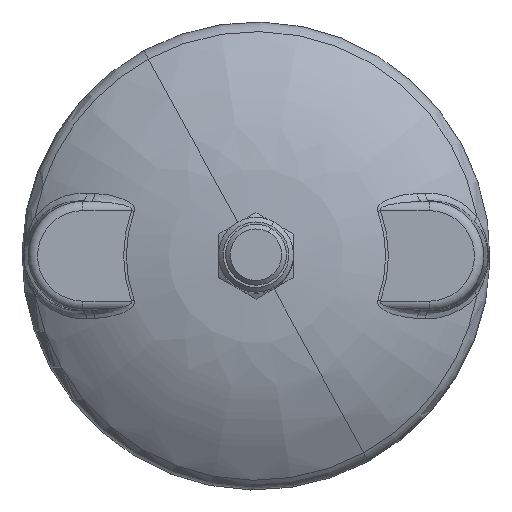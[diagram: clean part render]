
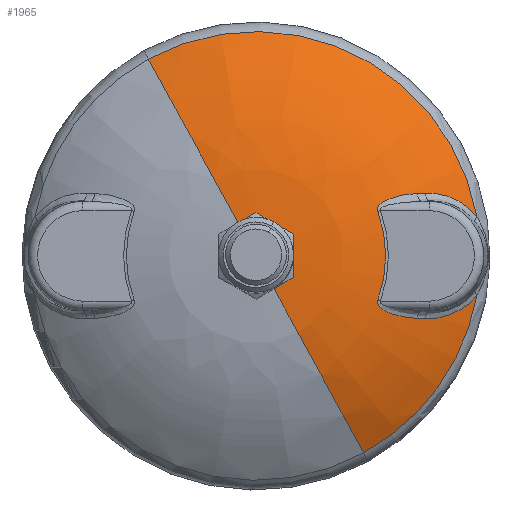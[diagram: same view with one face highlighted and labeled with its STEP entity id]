
A CAD part, top view. The second image highlights one B-rep face of the part: STEP entity #1965.
In plain terms, the highlighted face is a revolution surface.
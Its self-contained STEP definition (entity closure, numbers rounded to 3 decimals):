
#1318=CARTESIAN_POINT('Control Point',(-22.981,42.067,9.048)) ;
#1319=CARTESIAN_POINT('Control Point',(-18.839,34.485,15.31)) ;
#1320=CARTESIAN_POINT('Control Point',(-14.068,25.751,19.768)) ;
#1321=CARTESIAN_POINT('Control Point',(-8.951,16.384,22.)) ;
#1322=CARTESIAN_POINT('Control Point',(-3.835,7.021,22.)) ;
#1323=CARTESIAN_POINT('Axis1P Location',(0.,0.,-46.042)) ;
#1333=CARTESIAN_POINT('Vertex',(22.981,-42.067,9.048)) ;
#1336=CARTESIAN_POINT('Axis2P3D Location',(3.835,-7.021,-46.042)) ;
#1340=CARTESIAN_POINT('Vertex',(3.835,-7.021,22.)) ;
#1347=CARTESIAN_POINT('Vertex',(-3.835,7.021,22.)) ;
#1350=CARTESIAN_POINT('Axis2P3D Location',(-3.835,7.021,-46.042)) ;
#1354=CARTESIAN_POINT('Vertex',(-22.981,42.067,9.048)) ;
#1835=CARTESIAN_POINT('Axis2P3D Location',(0.,0.,9.048)) ;
#1839=CARTESIAN_POINT('Vertex',(47.195,8.388,9.048)) ;
#1842=CARTESIAN_POINT('Axis2P3D Location',(0.,0.,22.)) ;
#1847=CARTESIAN_POINT('Axis2P3D Location',(0.,0.,9.048)) ;
#1851=CARTESIAN_POINT('Vertex',(47.195,-8.388,9.048)) ;
#1855=CARTESIAN_POINT('Control Point',(36.158,-13.411,14.749)) ;
#1856=CARTESIAN_POINT('Control Point',(38.418,-13.501,13.667)) ;
#1857=CARTESIAN_POINT('Control Point',(40.742,-13.118,12.511)) ;
#1858=CARTESIAN_POINT('Control Point',(43.032,-12.224,11.328)) ;
#1859=CARTESIAN_POINT('Control Point',(45.302,-10.745,10.1)) ;
#1860=CARTESIAN_POINT('Control Point',(47.195,-8.388,9.048)) ;
#1861=CARTESIAN_POINT('Vertex',(36.158,-13.411,14.749)) ;
#1865=CARTESIAN_POINT('Control Point',(36.158,-13.411,14.749)) ;
#1866=CARTESIAN_POINT('Control Point',(35.592,-13.388,15.02)) ;
#1867=CARTESIAN_POINT('Control Point',(35.021,-13.366,15.283)) ;
#1868=CARTESIAN_POINT('Control Point',(34.446,-13.345,15.539)) ;
#1869=CARTESIAN_POINT('Vertex',(34.446,-13.345,15.539)) ;
#1873=CARTESIAN_POINT('Control Point',(26.031,-9.469,19.086)) ;
#1874=CARTESIAN_POINT('Control Point',(25.994,-9.573,19.086)) ;
#1875=CARTESIAN_POINT('Control Point',(25.964,-9.687,19.082)) ;
#1876=CARTESIAN_POINT('Control Point',(25.949,-9.807,19.074)) ;
#1877=CARTESIAN_POINT('Control Point',(25.951,-10.123,19.039)) ;
#1878=CARTESIAN_POINT('Control Point',(26.033,-10.348,18.99)) ;
#1879=CARTESIAN_POINT('Control Point',(26.092,-10.471,18.959)) ;
#1880=CARTESIAN_POINT('Control Point',(26.254,-10.738,18.881)) ;
#1881=CARTESIAN_POINT('Control Point',(26.44,-10.943,18.802)) ;
#1882=CARTESIAN_POINT('Control Point',(26.552,-11.052,18.756)) ;
#1883=CARTESIAN_POINT('Control Point',(26.829,-11.29,18.644)) ;
#1884=CARTESIAN_POINT('Control Point',(27.118,-11.488,18.531)) ;
#1885=CARTESIAN_POINT('Control Point',(27.288,-11.593,18.465)) ;
#1886=CARTESIAN_POINT('Control Point',(27.633,-11.788,18.331)) ;
#1887=CARTESIAN_POINT('Control Point',(27.985,-11.959,18.196)) ;
#1888=CARTESIAN_POINT('Control Point',(28.162,-12.039,18.128)) ;
#1889=CARTESIAN_POINT('Control Point',(28.792,-12.306,17.885)) ;
#1890=CARTESIAN_POINT('Control Point',(29.434,-12.522,17.635)) ;
#1891=CARTESIAN_POINT('Control Point',(29.895,-12.658,17.453)) ;
#1892=CARTESIAN_POINT('Control Point',(31.073,-12.961,16.982)) ;
#1893=CARTESIAN_POINT('Control Point',(32.266,-13.165,16.486)) ;
#1894=CARTESIAN_POINT('Control Point',(32.988,-13.257,16.179)) ;
#1895=CARTESIAN_POINT('Control Point',(33.716,-13.318,15.863)) ;
#1896=CARTESIAN_POINT('Control Point',(34.446,-13.345,15.539)) ;
#1897=CARTESIAN_POINT('Vertex',(26.031,-9.469,19.086)) ;
#1900=CARTESIAN_POINT('Axis2P3D Location',(0.,0.,19.086)) ;
#1904=CARTESIAN_POINT('Vertex',(26.031,9.469,19.086)) ;
#1908=CARTESIAN_POINT('Control Point',(34.446,13.345,15.539)) ;
#1909=CARTESIAN_POINT('Control Point',(33.443,13.308,15.984)) ;
#1910=CARTESIAN_POINT('Control Point',(32.447,13.207,16.414)) ;
#1911=CARTESIAN_POINT('Control Point',(31.456,13.047,16.828)) ;
#1912=CARTESIAN_POINT('Control Point',(30.158,12.763,17.352)) ;
#1913=CARTESIAN_POINT('Control Point',(28.888,12.332,17.847)) ;
#1914=CARTESIAN_POINT('Control Point',(28.585,12.219,17.965)) ;
#1915=CARTESIAN_POINT('Control Point',(28.081,12.011,18.159)) ;
#1916=CARTESIAN_POINT('Control Point',(27.587,11.762,18.349)) ;
#1917=CARTESIAN_POINT('Control Point',(27.392,11.655,18.425)) ;
#1918=CARTESIAN_POINT('Control Point',(27.067,11.459,18.55)) ;
#1919=CARTESIAN_POINT('Control Point',(26.754,11.225,18.674)) ;
#1920=CARTESIAN_POINT('Control Point',(26.631,11.124,18.723)) ;
#1921=CARTESIAN_POINT('Control Point',(26.429,10.937,18.806)) ;
#1922=CARTESIAN_POINT('Control Point',(26.242,10.706,18.888)) ;
#1923=CARTESIAN_POINT('Control Point',(26.17,10.603,18.921)) ;
#1924=CARTESIAN_POINT('Control Point',(26.067,10.431,18.971)) ;
#1925=CARTESIAN_POINT('Control Point',(25.992,10.205,19.018)) ;
#1926=CARTESIAN_POINT('Control Point',(25.97,10.118,19.034)) ;
#1927=CARTESIAN_POINT('Control Point',(25.945,9.944,19.06)) ;
#1928=CARTESIAN_POINT('Control Point',(25.959,9.739,19.078)) ;
#1929=CARTESIAN_POINT('Control Point',(25.976,9.643,19.083)) ;
#1930=CARTESIAN_POINT('Control Point',(26.001,9.553,19.086)) ;
#1931=CARTESIAN_POINT('Control Point',(26.031,9.469,19.086)) ;
#1932=CARTESIAN_POINT('Vertex',(34.446,13.345,15.539)) ;
#1936=CARTESIAN_POINT('Control Point',(36.158,13.411,14.749)) ;
#1937=CARTESIAN_POINT('Control Point',(35.592,13.388,15.02)) ;
#1938=CARTESIAN_POINT('Control Point',(35.021,13.366,15.283)) ;
#1939=CARTESIAN_POINT('Control Point',(34.446,13.345,15.539)) ;
#1940=CARTESIAN_POINT('Vertex',(36.158,13.411,14.749)) ;
#1944=CARTESIAN_POINT('Control Point',(47.195,8.388,9.048)) ;
#1945=CARTESIAN_POINT('Control Point',(45.302,10.745,10.1)) ;
#1946=CARTESIAN_POINT('Control Point',(43.032,12.224,11.328)) ;
#1947=CARTESIAN_POINT('Control Point',(40.741,13.119,12.512)) ;
#1948=CARTESIAN_POINT('Control Point',(38.417,13.501,13.668)) ;
#1949=CARTESIAN_POINT('Control Point',(36.158,13.411,14.749)) ;
#1324=DIRECTION('Axis1P Direction',(-0.,-0.,-1.)) ;
#1337=DIRECTION('Axis2P3D Direction',(-0.878,-0.479,0.)) ;
#1351=DIRECTION('Axis2P3D Direction',(0.878,0.479,-0.)) ;
#1836=DIRECTION('Axis2P3D Direction',(0.,0.,1.)) ;
#1843=DIRECTION('Axis2P3D Direction',(0.,0.,1.)) ;
#1848=DIRECTION('Axis2P3D Direction',(0.,0.,1.)) ;
#1901=DIRECTION('Axis2P3D Direction',(0.,0.,1.)) ;
#1338=AXIS2_PLACEMENT_3D('Circle Axis2P3D',#1336,#1337,$) ;
#1352=AXIS2_PLACEMENT_3D('Circle Axis2P3D',#1350,#1351,$) ;
#1837=AXIS2_PLACEMENT_3D('Circle Axis2P3D',#1835,#1836,$) ;
#1844=AXIS2_PLACEMENT_3D('Circle Axis2P3D',#1842,#1843,$) ;
#1849=AXIS2_PLACEMENT_3D('Circle Axis2P3D',#1847,#1848,$) ;
#1902=AXIS2_PLACEMENT_3D('Circle Axis2P3D',#1900,#1901,$) ;
#1952=ORIENTED_EDGE('',*,*,#1841,.T.) ;
#1953=ORIENTED_EDGE('',*,*,#1356,.T.) ;
#1954=ORIENTED_EDGE('',*,*,#1846,.F.) ;
#1955=ORIENTED_EDGE('',*,*,#1342,.F.) ;
#1956=ORIENTED_EDGE('',*,*,#1853,.T.) ;
#1957=ORIENTED_EDGE('',*,*,#1863,.T.) ;
#1958=ORIENTED_EDGE('',*,*,#1871,.T.) ;
#1959=ORIENTED_EDGE('',*,*,#1899,.T.) ;
#1960=ORIENTED_EDGE('',*,*,#1906,.T.) ;
#1961=ORIENTED_EDGE('',*,*,#1934,.T.) ;
#1962=ORIENTED_EDGE('',*,*,#1942,.T.) ;
#1963=ORIENTED_EDGE('',*,*,#1950,.T.) ;
#1965=ADVANCED_FACE('PartBody',(#1964),#1326,.F.) ;
#1325=AXIS1_PLACEMENT('Revolution Surface Axis1P',#1323,#1324) ;
#1317=B_SPLINE_CURVE_WITH_KNOTS('',4,(#1318,#1319,#1320,#1321,#1322),.UNSPECIFIED.,.F.,.U.,(5,5),(64.201,106.88),.UNSPECIFIED.) ;
#1854=B_SPLINE_CURVE_WITH_KNOTS('',5,(#1855,#1856,#1857,#1858,#1859,#1860),.UNSPECIFIED.,.F.,.U.,(6,6),(26.043,42.517),.UNSPECIFIED.) ;
#1864=B_SPLINE_CURVE_WITH_KNOTS('',3,(#1865,#1866,#1867,#1868),.UNSPECIFIED.,.F.,.U.,(4,4),(28.333,30.987),.UNSPECIFIED.) ;
#1872=B_SPLINE_CURVE_WITH_KNOTS('',5,(#1873,#1874,#1875,#1876,#1877,#1878,#1879,#1880,#1881,#1882,#1883,#1884,#1885,#1886,#1887,#1888,#1889,#1890,#1891,#1892,#1893,#1894,#1895,#1896),.UNSPECIFIED.,.F.,.U.,(6,3,3,3,3,3,3,6),(24.532,24.897,25.608,26.62,28.024,29.425,32.979,38.403),.UNSPECIFIED.) ;
#1907=B_SPLINE_CURVE_WITH_KNOTS('',5,(#1908,#1909,#1910,#1911,#1912,#1913,#1914,#1915,#1916,#1917,#1918,#1919,#1920,#1921,#1922,#1923,#1924,#1925,#1926,#1927,#1928,#1929,#1930,#1931),.UNSPECIFIED.,.F.,.U.,(6,3,3,3,3,3,3,6),(16.506,23.955,26.324,27.909,28.984,29.706,30.081,30.375),.UNSPECIFIED.) ;
#1935=B_SPLINE_CURVE_WITH_KNOTS('',3,(#1936,#1937,#1938,#1939),.UNSPECIFIED.,.F.,.U.,(4,4),(28.333,30.987),.UNSPECIFIED.) ;
#1943=B_SPLINE_CURVE_WITH_KNOTS('',5,(#1944,#1945,#1946,#1947,#1948,#1949),.UNSPECIFIED.,.F.,.U.,(6,6),(59.368,75.842),.UNSPECIFIED.) ;
#1339=CIRCLE('generated circle',#1338,68.042) ;
#1353=CIRCLE('generated circle',#1352,68.042) ;
#1838=CIRCLE('generated circle',#1837,47.935) ;
#1845=CIRCLE('generated circle',#1844,8.) ;
#1850=CIRCLE('generated circle',#1849,47.935) ;
#1903=CIRCLE('generated circle',#1902,27.7) ;
#1342=EDGE_CURVE('',#1334,#1341,#1339,.T.) ;
#1356=EDGE_CURVE('',#1355,#1348,#1353,.T.) ;
#1841=EDGE_CURVE('',#1840,#1355,#1838,.T.) ;
#1846=EDGE_CURVE('',#1341,#1348,#1845,.T.) ;
#1853=EDGE_CURVE('',#1334,#1852,#1850,.T.) ;
#1863=EDGE_CURVE('',#1852,#1862,#1854,.F.) ;
#1871=EDGE_CURVE('',#1862,#1870,#1864,.T.) ;
#1899=EDGE_CURVE('',#1870,#1898,#1872,.F.) ;
#1906=EDGE_CURVE('',#1898,#1905,#1903,.T.) ;
#1934=EDGE_CURVE('',#1905,#1933,#1907,.F.) ;
#1942=EDGE_CURVE('',#1933,#1941,#1935,.F.) ;
#1950=EDGE_CURVE('',#1941,#1840,#1943,.F.) ;
#1951=EDGE_LOOP('',(#1952,#1953,#1954,#1955,#1956,#1957,#1958,#1959,#1960,#1961,#1962,#1963)) ;
#1964=FACE_OUTER_BOUND('',#1951,.T.) ;
#1326=SURFACE_OF_REVOLUTION('homeo Torus',#1317,#1325) ;
#1334=VERTEX_POINT('',#1333) ;
#1341=VERTEX_POINT('',#1340) ;
#1348=VERTEX_POINT('',#1347) ;
#1355=VERTEX_POINT('',#1354) ;
#1840=VERTEX_POINT('',#1839) ;
#1852=VERTEX_POINT('',#1851) ;
#1862=VERTEX_POINT('',#1861) ;
#1870=VERTEX_POINT('',#1869) ;
#1898=VERTEX_POINT('',#1897) ;
#1905=VERTEX_POINT('',#1904) ;
#1933=VERTEX_POINT('',#1932) ;
#1941=VERTEX_POINT('',#1940) ;
